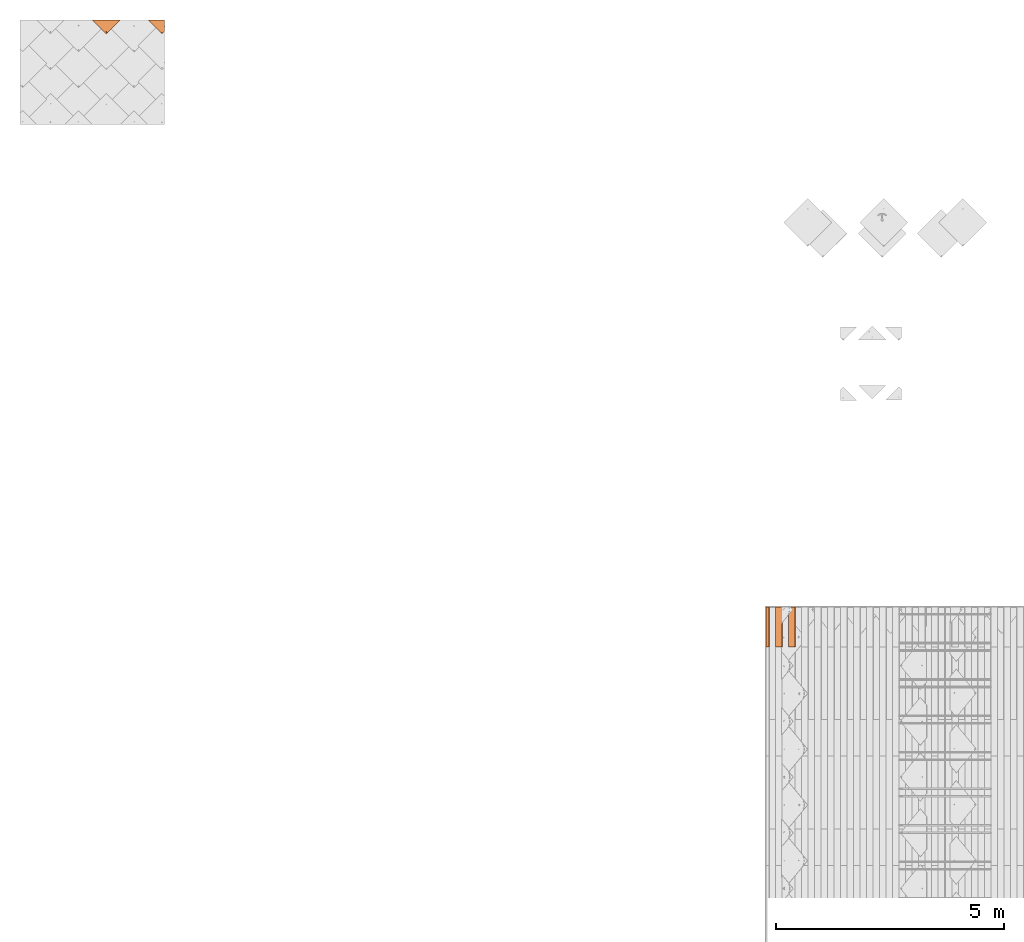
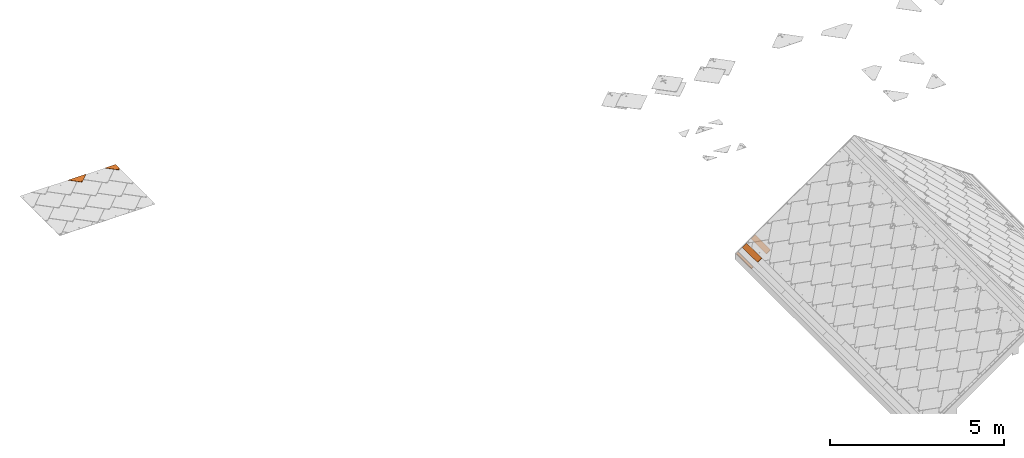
# One storey, part 120 of 151: 5 proxies, 1 element without a shape of its own.
"""IFC2X3 building model written with IfcOpenShell, lengths in millimetres."""

from ifc_helpers import new_model, entity, si_unit, converted_unit, derived_unit, direction, frame, frame_2d, origin, place, context, subcontext, project, spatial, polyline, rectangle, outline, extrude, faceted_brep, source, transform, mapped, material, material_list, type_object, type_shapes, element, aggregate, save


model = new_model("IFC2X3")

# Units and contexts
model_context = context("Model", 3, precision=0.01, world=origin(), true_north=direction((6.12303176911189e-17, 1.0)))
body_context = subcontext(model_context, "Body", "Model", "MODEL_VIEW")
ifc_project = project(units=[si_unit("LENGTHUNIT", "METRE", prefix="MILLI"), si_unit("AREAUNIT", "SQUARE_METRE"), si_unit("VOLUMEUNIT", "CUBIC_METRE"), converted_unit("PLANEANGLEUNIT", "DEGREE", entity("IfcRatioMeasure", 0.0174532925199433), si_unit("PLANEANGLEUNIT", "RADIAN"), dimensions=[0, 0, 0, 0, 0, 0, 0]), si_unit("MASSUNIT", "GRAM", prefix="KILO"), derived_unit("MASSDENSITYUNIT", [(si_unit("MASSUNIT", "GRAM", prefix="KILO"), 1), (si_unit("LENGTHUNIT", "METRE"), -3)]), si_unit("TIMEUNIT", "SECOND"), si_unit("FREQUENCYUNIT", "HERTZ"), si_unit("THERMODYNAMICTEMPERATUREUNIT", "DEGREE_CELSIUS"), derived_unit("THERMALTRANSMITTANCEUNIT", [(si_unit("MASSUNIT", "GRAM", prefix="KILO"), 1), (si_unit("THERMODYNAMICTEMPERATUREUNIT", "KELVIN"), -1), (si_unit("TIMEUNIT", "SECOND"), -3)]), derived_unit("VOLUMETRICFLOWRATEUNIT", [(si_unit("LENGTHUNIT", "METRE"), 3), (si_unit("TIMEUNIT", "SECOND"), -1)]), si_unit("ELECTRICCURRENTUNIT", "AMPERE"), si_unit("ELECTRICVOLTAGEUNIT", "VOLT"), si_unit("POWERUNIT", "WATT"), si_unit("FORCEUNIT", "NEWTON", prefix="KILO"), si_unit("ILLUMINANCEUNIT", "LUX"), si_unit("LUMINOUSFLUXUNIT", "LUMEN"), si_unit("LUMINOUSINTENSITYUNIT", "CANDELA"), derived_unit("USERDEFINED", [(si_unit("MASSUNIT", "GRAM", prefix="KILO"), -1), (si_unit("LENGTHUNIT", "METRE"), -2), (si_unit("TIMEUNIT", "SECOND"), 3), (si_unit("LUMINOUSFLUXUNIT", "LUMEN"), 1)]), derived_unit("LINEARVELOCITYUNIT", [(si_unit("LENGTHUNIT", "METRE"), 1), (si_unit("TIMEUNIT", "SECOND"), -1)]), si_unit("PRESSUREUNIT", "PASCAL"), derived_unit("USERDEFINED", [(si_unit("LENGTHUNIT", "METRE"), -2), (si_unit("MASSUNIT", "GRAM", prefix="KILO"), 1), (si_unit("TIMEUNIT", "SECOND"), -2)])], contexts=[model_context])

# Site, building, storey
site_placement = place(None, origin())
site = spatial("IfcSite", under=ifc_project, at=site_placement, Name="Default", CompositionType="ELEMENT")
building_placement = place(site_placement, origin())
building = spatial("IfcBuilding", under=site, at=building_placement, CompositionType="ELEMENT")
storey_placement = place(building_placement, origin())
storey = spatial("IfcBuildingStorey", under=building, at=storey_placement, Name="Level 1", CompositionType="ELEMENT", Elevation=0.0)

# Assembly, proxies
assembly_placement = place(storey_placement, origin())
assembly = element("IfcElementAssembly", 1, at=assembly_placement, inside=storey, Name="Structural Framing Assembly:Roof Construction Assembly", ObjectType="Structural Framing Assembly:Roof Construction Assembly", AssemblyPlace="NOTDEFINED", PredefinedType="USERDEFINED")
ifc_material_1 = material(Name="Wood - Generic - Wood For Showcase")
building_element_proxy_type_1 = type_object("IfcBuildingElementProxyType", Name="Structural Framing 15", PredefinedType="NOTDEFINED", material=ifc_material_1)
shared_shape_1 = source(origin(), body_context, "Body", "SweptSolid", [
    extrude(rectangle(XDim=24.9999999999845, YDim=174.344679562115, at=frame_2d((-1.77635683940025e-13, -4.54747350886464e-13), x_axis=(0.0, 1.0))), frame((1128.20180147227, 3055.55080214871, 2760.23940055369), z_axis=(0.0, 1.0, 0.0), x_axis=(-0.819152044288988, 0.0, -0.573576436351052)), (0.0, 0.0, 1.0), 870.000000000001),
])
type_shapes(building_element_proxy_type_1, [shared_shape_1])
proxy_1_placement = place(assembly_placement, frame((-3227.25254439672, 0.0, -2300.0)))
proxy_1 = element("IfcBuildingElementProxy", 2, at=proxy_1_placement, type_object=building_element_proxy_type_1, material=ifc_material_1, Name="Structural Framing 134:Structural Framing 15", ObjectType="Structural Framing 134:Structural Framing 15", context=body_context, shape_type="MappedRepresentation", body=[
    mapped(shared_shape_1, transform((0.0, 0.0, 0.0), scale=1.0)),
])
building_element_proxy_type_2 = type_object("IfcBuildingElementProxyType", Name="Structural Framing 15", PredefinedType="NOTDEFINED", material=ifc_material_1)
shared_shape_2 = source(origin(), body_context, "Body", "SweptSolid", [
    extrude(rectangle(XDim=24.9999999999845, YDim=174.344679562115, at=frame_2d((-1.77635683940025e-13, -4.54747350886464e-13), x_axis=(0.0, 1.0))), frame((1128.20180147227, 3055.55080214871, 2760.23940055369), z_axis=(0.0, 1.0, 0.0), x_axis=(-0.819152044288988, 0.0, -0.573576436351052)), (0.0, 0.0, 1.0), 870.000000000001),
])
type_shapes(building_element_proxy_type_2, [shared_shape_2])
proxy_2_placement = place(assembly_placement, frame((-3512.88214574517, 0.0, -2500.0)))
proxy_2 = element("IfcBuildingElementProxy", 3, at=proxy_2_placement, type_object=building_element_proxy_type_2, material=ifc_material_1, Name="Structural Framing 144:Structural Framing 15", ObjectType="Structural Framing 144:Structural Framing 15", context=body_context, shape_type="MappedRepresentation", body=[
    mapped(shared_shape_2, transform((0.0, 0.0, 0.0), scale=1.0)),
])
building_element_proxy_type_3 = type_object("IfcBuildingElementProxyType", Name="Structural Framing 15", PredefinedType="NOTDEFINED", material=ifc_material_1)
shared_shape_3 = source(origin(), body_context, "Body", "SweptSolid", [
    extrude(outline(polyline([(-38.2231230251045, -12.4999999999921), (46.9757172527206, -12.4999999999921), (29.4705287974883, 12.4999999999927), (-38.2231230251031, 12.4999999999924), (-38.2231230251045, -12.4999999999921)])), frame((-2687.70096575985, -6581.94919785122, 88.315517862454), z_axis=(0.0, 1.0, 0.0), x_axis=(-0.81915204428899, 0.0, -0.573576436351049)), (0.0, 0.0, 1.0), 869.999999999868),
])
type_shapes(building_element_proxy_type_3, [shared_shape_3])
proxy_3_placement = place(assembly_placement, frame((57.4878711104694, 9637.49999999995, 0.0)))
proxy_3 = element("IfcBuildingElementProxy", 4, at=proxy_3_placement, type_object=building_element_proxy_type_3, material=ifc_material_1, Name="Structural Framing 154:Structural Framing 15", ObjectType="Structural Framing 154:Structural Framing 15", context=body_context, shape_type="MappedRepresentation", body=[
    mapped(shared_shape_3, transform((0.0, 0.0, 0.0), scale=1.0)),
])
aggregate(assembly, [proxy_1, proxy_2, proxy_3])

# Proxies
ifc_material_2 = material(Name="Rubber - Sunstyle - Black")
ifc_material_3 = material(Name="Glass - Sunstyle - Tainted Black")
ifc_material_list_1 = material_list([ifc_material_2, ifc_material_3])
ifc_material_list_2 = material_list([ifc_material_2, ifc_material_3])
building_element_proxy_type_4 = type_object("IfcBuildingElementProxyType", Name="Corner Top Small Right - Black", PredefinedType="NOTDEFINED", material=ifc_material_list_2)
shared_shape_4 = source(origin(), body_context, "Body", "Brep", [
    faceted_brep([(300.309183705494, 41.6050579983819, 1.59527223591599), (294.534980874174, 38.2717878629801, 1.65109621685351), (294.534980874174, 38.6400969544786, 23.6429655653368), (300.309183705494, 41.9733670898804, 23.5871415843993), (294.534980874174, 31.6052475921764, 1.76274417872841), (294.534980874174, 31.9735566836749, 23.7546135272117), (300.309183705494, 28.2719774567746, 1.81856815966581), (300.309183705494, 28.640286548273, 23.8104375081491), (306.083386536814, 31.6052475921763, 1.7627441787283), (306.083386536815, 31.9735566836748, 23.7546135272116), (306.083386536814, 38.2717878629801, 1.65109621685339), (306.083386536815, 38.6400969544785, 23.6429655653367), (291.705479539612, 26.704328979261, 23.8428599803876), (300.309183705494, 23.1410577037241, 23.9025359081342), (288.141708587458, 35.3068268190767, 23.6987895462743), (291.705479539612, 43.9093246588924, 23.5547191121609), (300.309183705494, 47.4725959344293, 23.4950431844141), (308.912887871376, 43.9093246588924, 23.5547191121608), (312.476658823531, 35.3068268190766, 23.6987895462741), (308.912887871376, 26.704328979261, 23.8428599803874), (288.984939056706, 37.6019039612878, 26.0116314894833), (290.552709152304, 35.3778417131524, 27.9391141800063), (300.309183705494, 42.6909169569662, 28.5718145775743), (300.309183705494, 43.9314145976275, 27.9914679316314), (300.309183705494, 46.0889654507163, 26.98209285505), (300.309183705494, 23.6971017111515, 25.1775938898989), (300.309183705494, 24.6406783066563, 27.3412982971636), (300.309183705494, 28.0900540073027, 28.8163427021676), (300.309183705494, 46.9595598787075, 24.7880055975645), (293.985938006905, 31.7402697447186, 28.7552106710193), (293.985938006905, 39.0407012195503, 28.6329466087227), (311.633428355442, 33.0904837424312, 26.0871865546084), (310.15806385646, 34.3034352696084, 27.8602460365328), (306.632429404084, 39.0407012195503, 28.6329466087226), (306.632429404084, 31.7402697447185, 28.7552106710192), (293.985938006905, 31.8742982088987, 36.7580988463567), (300.309183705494, 28.224082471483, 36.8192308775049), (300.309183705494, 35.5245139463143, 36.6969668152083), (293.985938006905, 39.17472968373, 36.6358347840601), (306.632429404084, 31.8742982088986, 36.7580988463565), (306.632429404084, 39.1747296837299, 36.6358347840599), (300.309183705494, 42.8249454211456, 36.5747027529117), (300.309183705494, 34.9385177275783, 1.7069201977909)], [[[0, 1, 2, 3]], [[1, 4, 5, 2]], [[4, 6, 7, 5]], [[6, 8, 9, 7]], [[8, 10, 11, 9]], [[10, 0, 3, 11]], [[12, 7, 13]], [[7, 12, 5]], [[14, 5, 12]], [[5, 14, 2]], [[15, 2, 14]], [[3, 2, 15]], [[15, 16, 3]], [[16, 17, 3]], [[11, 3, 17]], [[11, 17, 18]], [[9, 11, 18]], [[18, 19, 9]], [[7, 9, 19]], [[19, 13, 7]], [[20, 14, 12]], [[21, 22, 23, 24]], [[24, 20, 21]], [[25, 20, 12]], [[26, 27, 21]], [[15, 14, 20]], [[12, 13, 25]], [[20, 28, 15]], [[28, 20, 24]], [[21, 27, 29]], [[21, 29, 30]], [[26, 21, 20]], [[20, 25, 26]], [[15, 28, 16]], [[21, 30, 22]], [[31, 18, 17]], [[28, 31, 17]], [[32, 27, 26]], [[26, 31, 32]], [[26, 25, 31]], [[25, 19, 31]], [[17, 16, 28]], [[31, 19, 18]], [[24, 31, 28]], [[33, 34, 32]], [[23, 22, 33]], [[24, 32, 31]], [[27, 32, 34]], [[32, 23, 33]], [[19, 25, 13]], [[32, 24, 23]], [[35, 36, 37]], [[37, 38, 35]], [[36, 39, 37]], [[40, 37, 39]], [[37, 40, 41]], [[37, 41, 38]], [[42, 6, 4]], [[4, 1, 42]], [[1, 0, 42]], [[42, 8, 6]], [[0, 10, 42]], [[8, 42, 10]], [[22, 30, 38, 41]], [[30, 29, 35, 38]], [[29, 27, 36, 35]], [[27, 34, 39, 36]], [[34, 33, 40, 39]], [[33, 22, 41, 40]]]),
    faceted_brep([(300.700466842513, 0.125588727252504, 24.1962208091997), (304.302649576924, 28.4261395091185, 23.7222570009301), (302.373201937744, 27.6270481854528, 23.7356397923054), (305.959503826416, 29.6973102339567, 23.7009680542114), (300.302649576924, 27.3544930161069, 23.7402044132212), (307.230852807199, 31.3539321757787, 23.6732237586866), (360.803898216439, 60.2121670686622, 23.189920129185), (298.232097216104, 27.6270481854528, 23.7356397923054), (296.302649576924, 28.4261395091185, 23.7222570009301), (294.645795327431, 29.6973102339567, 23.7009680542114), (293.374446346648, 31.3539321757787, 23.6732237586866), (292.575242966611, 33.2831092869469, 23.6409148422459), (0.0, 300.741739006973, 19.1616482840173), (308.030056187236, 33.2831092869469, 23.6409148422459), (308.302649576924, 35.3533713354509, 23.6062431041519), (308.030056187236, 37.4236333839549, 23.5715713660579), (307.230852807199, 39.3528104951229, 23.5392624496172), (305.959503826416, 41.0094324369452, 23.5115181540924), (304.302649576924, 42.2806031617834, 23.4902292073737), (302.373201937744, 43.079694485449, 23.4768464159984), (300.302649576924, 43.3522496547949, 23.4722817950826), (360.803898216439, 300.741739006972, 19.1616482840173), (298.232097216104, 43.079694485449, 23.4768464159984), (296.302649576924, 42.2806031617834, 23.4902292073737), (294.645795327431, 41.009432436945, 23.5115181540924), (292.302649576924, 35.3533713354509, 23.6062431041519), (292.575242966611, 37.4236333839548, 23.5715713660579), (293.374446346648, 39.3528104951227, 23.5392624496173), (300.302649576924, 43.2266609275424, 15.9733333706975), (360.803898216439, 300.616150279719, 11.6626998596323), (360.803898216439, 60.0865783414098, 15.6909717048), (302.373201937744, 42.9541057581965, 15.9778979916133), (298.232097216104, 42.9541057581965, 15.9778979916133), (296.302649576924, 42.1550144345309, 15.9912807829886), (0.0, 300.61615027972, 11.6626998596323), (294.645795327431, 40.8838437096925, 16.0125697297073), (293.374446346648, 39.2272217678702, 16.0403140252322), (292.575242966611, 37.2980446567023, 16.0726229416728), (292.302649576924, 35.2277826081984, 16.1072946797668), (292.575242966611, 33.1575205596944, 16.1419664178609), (300.700466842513, 0.0, 16.6972723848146), (293.374446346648, 31.2283434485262, 16.1742753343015), (294.645795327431, 29.5717215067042, 16.2020196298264), (296.302649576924, 28.300550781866, 16.2233085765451), (298.232097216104, 27.5014594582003, 16.2366913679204), (300.302649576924, 27.2289042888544, 16.2412559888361), (302.373201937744, 27.5014594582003, 16.2366913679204), (304.302649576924, 28.300550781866, 16.2233085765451), (305.959503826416, 29.5717215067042, 16.2020196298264), (307.230852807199, 31.2283434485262, 16.1742753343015), (308.030056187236, 33.1575205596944, 16.1419664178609), (308.302649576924, 35.2277826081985, 16.1072946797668), (308.030056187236, 37.2980446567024, 16.0726229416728), (307.230852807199, 39.2272217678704, 16.0403140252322), (305.959503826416, 40.8838437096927, 16.0125697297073), (304.302649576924, 42.1550144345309, 15.9912807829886)], [[[0, 1, 2]], [[1, 0, 3]], [[0, 2, 4]], [[5, 3, 0]], [[5, 0, 6]], [[4, 7, 0]], [[7, 8, 0]], [[8, 9, 0]], [[9, 10, 0]], [[10, 11, 0]], [[0, 11, 12]], [[6, 13, 5]], [[14, 13, 6]], [[15, 14, 6]], [[16, 15, 6]], [[17, 16, 6]], [[6, 18, 17]], [[19, 18, 6]], [[19, 6, 20]], [[6, 21, 20]], [[20, 21, 22]], [[23, 22, 21]], [[12, 23, 21]], [[23, 12, 24]], [[11, 25, 12]], [[26, 12, 25]], [[26, 27, 12]], [[27, 24, 12]], [[28, 29, 30]], [[28, 30, 31]], [[32, 29, 28]], [[32, 33, 29]], [[29, 33, 34]], [[33, 35, 34]], [[35, 36, 34]], [[36, 37, 34]], [[34, 37, 38]], [[38, 39, 34]], [[40, 34, 39]], [[39, 41, 40]], [[41, 42, 40]], [[42, 43, 40]], [[44, 40, 43]], [[44, 45, 40]], [[46, 40, 45]], [[40, 46, 47]], [[47, 48, 40]], [[48, 49, 40]], [[50, 30, 49]], [[30, 40, 49]], [[50, 51, 30]], [[30, 51, 52]], [[52, 53, 30]], [[53, 54, 30]], [[54, 55, 30]], [[31, 30, 55]], [[0, 12, 34, 40]], [[6, 0, 40, 30]], [[25, 38, 37, 26]], [[26, 37, 36, 27]], [[23, 24, 35, 33]], [[35, 24, 27, 36]], [[22, 23, 33, 32]], [[22, 32, 28, 20]], [[20, 28, 31, 19]], [[19, 31, 55, 18]], [[16, 17, 54, 53]], [[54, 17, 18, 55]], [[15, 16, 53, 52]], [[15, 52, 51, 14]], [[14, 51, 50, 13]], [[13, 50, 49, 5]], [[1, 3, 48, 47]], [[48, 3, 5, 49]], [[2, 1, 47, 46]], [[2, 46, 45, 4]], [[4, 45, 44, 7]], [[7, 44, 43, 8]], [[10, 9, 42, 41]], [[42, 9, 8, 43]], [[11, 10, 41, 39]], [[11, 39, 38, 25]], [[12, 21, 29, 34]], [[21, 6, 30, 29]]]),
])
type_shapes(building_element_proxy_type_4, [shared_shape_4])
proxy_4_placement = place(storey_placement, frame((-16230.866130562, 16513.4189150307, 2.41109682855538)))
element("IfcBuildingElementProxy", 5, at=proxy_4_placement, inside=storey, type_object=building_element_proxy_type_4, material=ifc_material_list_1, Name="Roofing_Panels_SunStyle_Tile_Corner-Top-Small-Right:Corner Top Small Right - Black", ObjectType="Roofing_Panels_SunStyle_Tile_Corner-Top-Small-Right:Corner Top Small Right - Black", context=body_context, shape_type="MappedRepresentation", body=[
    mapped(shared_shape_4, transform((0.0, 0.0, 0.0), scale=1.0)),
])
ifc_material_list_3 = material_list([ifc_material_2, ifc_material_3])
ifc_material_list_4 = material_list([ifc_material_2, ifc_material_3])
building_element_proxy_type_5 = type_object("IfcBuildingElementProxyType", Name="Shingle Top Small - Black", PredefinedType="NOTDEFINED", material=ifc_material_list_4)
shared_shape_5 = source(origin(), body_context, "Body", "Brep", [
    faceted_brep([(300.675008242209, 41.77298489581, 1.59527223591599), (294.900805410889, 38.4397147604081, 1.65109621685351), (294.900805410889, 38.8080238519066, 23.6429655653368), (300.675008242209, 42.1412939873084, 23.5871415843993), (294.900805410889, 31.7731744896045, 1.76274417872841), (294.900805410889, 32.1414835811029, 23.7546135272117), (300.675008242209, 28.4399043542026, 1.81856815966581), (300.675008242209, 28.808213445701, 23.8104375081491), (306.44921107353, 31.7731744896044, 1.7627441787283), (306.44921107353, 32.1414835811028, 23.7546135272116), (306.44921107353, 38.4397147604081, 1.65109621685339), (306.44921107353, 38.8080238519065, 23.6429655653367), (292.071304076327, 26.8722558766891, 23.8428599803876), (300.675008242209, 23.3089846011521, 23.9025359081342), (288.507533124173, 35.4747537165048, 23.6987895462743), (292.071304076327, 44.0772515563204, 23.5547191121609), (300.675008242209, 47.6405228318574, 23.4950431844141), (309.278712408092, 44.0772515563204, 23.5547191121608), (312.842483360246, 35.4747537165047, 23.6987895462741), (309.278712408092, 26.872255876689, 23.8428599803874), (289.350763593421, 37.7698308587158, 26.0116314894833), (290.91853368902, 35.5457686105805, 27.9391141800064), (300.67500824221, 42.8588438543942, 28.5718145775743), (300.67500824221, 44.0993414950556, 27.9914679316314), (300.675008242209, 46.2568923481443, 26.98209285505), (300.675008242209, 23.8650286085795, 25.1775938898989), (300.675008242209, 24.8086052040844, 27.3412982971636), (300.675008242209, 28.2579809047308, 28.8163427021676), (300.675008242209, 47.1274867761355, 24.7880055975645), (294.35176254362, 31.9081966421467, 28.7552106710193), (294.35176254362, 39.2086281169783, 28.6329466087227), (311.999252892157, 33.2584106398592, 26.0871865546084), (310.523888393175, 34.4713621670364, 27.8602460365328), (306.998253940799, 39.2086281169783, 28.6329466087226), (306.998253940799, 31.9081966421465, 28.7552106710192), (294.35176254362, 32.0422251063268, 36.7580988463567), (300.67500824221, 28.3920093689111, 36.8192308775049), (300.67500824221, 35.6924408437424, 36.6969668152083), (294.35176254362, 39.342656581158, 36.6358347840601), (306.998253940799, 32.0422251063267, 36.7580988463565), (306.998253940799, 39.342656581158, 36.6358347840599), (300.67500824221, 42.9928723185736, 36.5747027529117), (300.675008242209, 35.1064446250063, 1.7069201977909)], [[[0, 1, 2, 3]], [[1, 4, 5, 2]], [[4, 6, 7, 5]], [[6, 8, 9, 7]], [[8, 10, 11, 9]], [[10, 0, 3, 11]], [[12, 7, 13]], [[7, 12, 5]], [[14, 5, 12]], [[5, 14, 2]], [[15, 2, 14]], [[3, 2, 15]], [[15, 16, 3]], [[16, 17, 3]], [[11, 3, 17]], [[11, 17, 18]], [[9, 11, 18]], [[18, 19, 9]], [[7, 9, 19]], [[19, 13, 7]], [[20, 14, 12]], [[21, 22, 23, 24]], [[24, 20, 21]], [[25, 20, 12]], [[26, 27, 21]], [[15, 14, 20]], [[12, 13, 25]], [[20, 28, 15]], [[28, 20, 24]], [[21, 27, 29]], [[21, 29, 30]], [[26, 21, 20]], [[20, 25, 26]], [[15, 28, 16]], [[21, 30, 22]], [[31, 18, 17]], [[28, 31, 17]], [[32, 27, 26]], [[26, 31, 32]], [[26, 25, 31]], [[25, 19, 31]], [[17, 16, 28]], [[31, 19, 18]], [[24, 31, 28]], [[33, 34, 32]], [[23, 22, 33]], [[24, 32, 31]], [[27, 32, 34]], [[32, 23, 33]], [[19, 25, 13]], [[32, 24, 23]], [[35, 36, 37]], [[37, 38, 35]], [[36, 39, 37]], [[40, 37, 39]], [[37, 40, 41]], [[37, 41, 38]], [[42, 6, 4]], [[4, 1, 42]], [[1, 0, 42]], [[42, 8, 6]], [[0, 10, 42]], [[8, 42, 10]], [[22, 30, 38, 41]], [[30, 29, 35, 38]], [[29, 27, 36, 35]], [[27, 34, 39, 36]], [[34, 33, 40, 39]], [[33, 22, 41, 40]]]),
    faceted_brep([(601.350661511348, 300.716609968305, 19.1616152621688), (307.603211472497, 39.4797476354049, 23.5366826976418), (308.402414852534, 37.5505705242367, 23.5689916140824), (306.331862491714, 41.1363695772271, 23.5089384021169), (308.675008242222, 35.4803084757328, 23.6036633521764), (304.675008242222, 42.4075403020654, 23.4876494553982), (302.745560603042, 43.206631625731, 23.4742666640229), (300.675008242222, 43.4791867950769, 23.4697020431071), (308.402414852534, 33.4100464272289, 23.6383350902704), (300.675330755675, 0.125588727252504, 24.1957669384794), (0.0, 300.716609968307, 19.1616152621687), (298.604455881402, 43.2066316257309, 23.4742666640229), (296.675008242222, 42.4075403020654, 23.4876494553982), (295.018153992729, 41.136369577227, 23.5089384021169), (293.746805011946, 39.4797476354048, 23.5366826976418), (292.947601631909, 37.5505705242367, 23.5689916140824), (292.675008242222, 35.4803084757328, 23.6036633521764), (292.947601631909, 33.4100464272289, 23.6383350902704), (293.746805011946, 31.4808693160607, 23.6706440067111), (307.603211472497, 31.4808693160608, 23.6706440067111), (306.331862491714, 29.8242473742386, 23.698388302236), (304.675008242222, 28.5530766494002, 23.7196772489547), (302.745560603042, 27.7539853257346, 23.73306004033), (300.675008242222, 27.4814301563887, 23.7376246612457), (298.604455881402, 27.7539853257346, 23.73306004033), (296.675008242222, 28.5530766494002, 23.7196772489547), (295.018153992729, 29.8242473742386, 23.698388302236), (0.0, 300.591021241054, 11.6626668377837), (295.018153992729, 41.0107808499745, 16.0099899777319), (293.746805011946, 39.3541589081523, 16.0377342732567), (296.675008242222, 42.2819515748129, 15.9887010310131), (292.947601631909, 37.4249817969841, 16.0700431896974), (298.604455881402, 43.0810428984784, 15.9753182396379), (300.675008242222, 43.3535980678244, 15.9707536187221), (601.350661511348, 300.591021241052, 11.6626668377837), (292.675008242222, 35.3547197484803, 16.1047149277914), (292.947601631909, 33.2844576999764, 16.1393866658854), (300.675330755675, 0.0, 16.6968185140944), (302.745560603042, 43.0810428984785, 15.9753182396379), (304.675008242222, 42.2819515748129, 15.9887010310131), (306.331862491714, 41.0107808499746, 16.0099899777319), (307.603211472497, 39.3541589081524, 16.0377342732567), (308.402414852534, 37.4249817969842, 16.0700431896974), (308.675008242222, 35.3547197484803, 16.1047149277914), (308.402414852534, 33.2844576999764, 16.1393866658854), (307.603211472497, 31.3552805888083, 16.171695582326), (293.746805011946, 31.3552805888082, 16.171695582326), (295.018153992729, 29.6986586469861, 16.1994398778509), (296.675008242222, 28.4274879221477, 16.2207288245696), (298.604455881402, 27.6283965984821, 16.2341116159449), (300.675008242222, 27.3558414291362, 16.2386762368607), (302.745560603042, 27.6283965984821, 16.2341116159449), (304.675008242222, 28.4274879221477, 16.2207288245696), (306.331862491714, 29.6986586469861, 16.1994398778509)], [[[0, 1, 2]], [[1, 0, 3]], [[0, 2, 4]], [[5, 3, 0]], [[6, 5, 0]], [[0, 7, 6]], [[4, 8, 0]], [[8, 9, 0]], [[7, 0, 10]], [[11, 7, 10]], [[12, 11, 10]], [[10, 13, 12]], [[13, 10, 14]], [[15, 14, 10]], [[10, 16, 15]], [[17, 16, 10]], [[10, 9, 17]], [[17, 9, 18]], [[8, 19, 9]], [[20, 9, 19]], [[20, 21, 9]], [[22, 9, 21]], [[23, 9, 22]], [[23, 24, 9]], [[24, 25, 9]], [[25, 26, 9]], [[9, 26, 18]], [[27, 28, 29]], [[28, 27, 30]], [[27, 29, 31]], [[32, 30, 27]], [[33, 32, 27]], [[27, 34, 33]], [[31, 35, 27]], [[35, 36, 27]], [[27, 36, 37]], [[38, 33, 34]], [[39, 38, 34]], [[40, 39, 34]], [[34, 41, 40]], [[41, 34, 42]], [[43, 42, 34]], [[34, 44, 43]], [[37, 44, 34]], [[45, 44, 37]], [[37, 36, 46]], [[37, 46, 47]], [[47, 48, 37]], [[48, 49, 37]], [[50, 37, 49]], [[50, 51, 37]], [[37, 51, 52]], [[52, 53, 37]], [[45, 37, 53]], [[9, 10, 27, 37]], [[0, 9, 37, 34]], [[16, 35, 31, 15]], [[15, 31, 29, 14]], [[12, 13, 28, 30]], [[28, 13, 14, 29]], [[11, 12, 30, 32]], [[11, 32, 33, 7]], [[7, 33, 38, 6]], [[6, 38, 39, 5]], [[1, 3, 40, 41]], [[40, 3, 5, 39]], [[2, 1, 41, 42]], [[2, 42, 43, 4]], [[4, 43, 44, 8]], [[8, 44, 45, 19]], [[21, 20, 53, 52]], [[53, 20, 19, 45]], [[22, 21, 52, 51]], [[22, 51, 50, 23]], [[23, 50, 49, 24]], [[24, 49, 48, 25]], [[18, 26, 47, 46]], [[47, 26, 25, 48]], [[17, 18, 46, 36]], [[17, 36, 35, 16]], [[10, 0, 34, 27]]]),
])
type_shapes(building_element_proxy_type_5, [shared_shape_5])
proxy_5_placement = place(storey_placement, frame((-17453.5372405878, 16515.782854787, 2.4110968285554)))
element("IfcBuildingElementProxy", 6, at=proxy_5_placement, inside=storey, type_object=building_element_proxy_type_5, material=ifc_material_list_3, Name="Roofing_Panels_SunStyle_Tile_Shingle-Top-Small:Shingle Top Small - Black", ObjectType="Roofing_Panels_SunStyle_Tile_Shingle-Top-Small:Shingle Top Small - Black", context=body_context, shape_type="MappedRepresentation", body=[
    mapped(shared_shape_5, transform((0.0, 0.0, 0.0), scale=1.0)),
])

save(model, "model.ifc")
